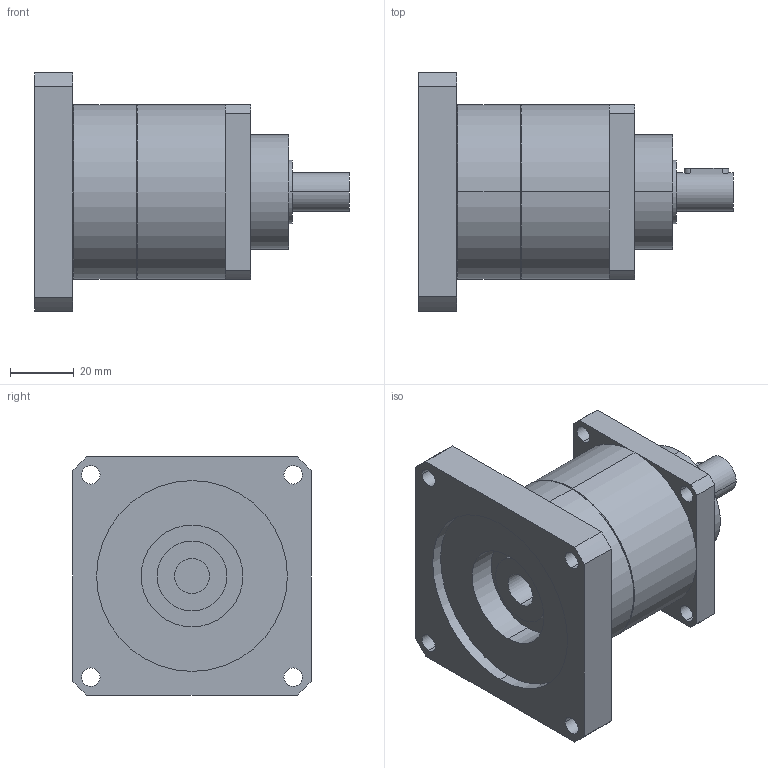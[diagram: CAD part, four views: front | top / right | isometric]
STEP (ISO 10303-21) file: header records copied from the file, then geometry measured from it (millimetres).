
FILE_DESCRIPTION(('CoCreate Modeling STEP Export'),'2;1');
FILE_NAME('GPT55_ig-3-4-5-7-10_12_B5A_11_P15.stp','2014-08-25T14:31:22',(''),(''),'CoCreate Modeling STEP processor for AP214 (Solid Model)','CoCreate Modeling 16.00C 25-Feb-2009 (C) Parametric Technology GmbH','');
FILE_SCHEMA(('AUTOMOTIVE_DESIGN { 1 0 10303 214 1 1 1 1 }'));
Length unit declared in the file: millimetre
Products named in the file (2): GPT55_ig-3-4-5-7-10_12_B5A_11_P15
Assembly tree (1 placements, depth 2):
  GPT55_ig-3-4-5-7-10_12_B5A_11_P15
    GPT55_ig-3-4-5-7-10_12_B5A_11_P15
Bounding box: 99 x 75 x 75 mm (x, y, z)
Volume: 199874.2 mm3; surface area: 31891.1 mm2
Topology: 1 solids, 1 shells, 77 faces, 204 edges, 139 vertices
Faces by surface type: cylinder 46, plane 27, cone 4
Entity records: 2515 total; most frequent: CARTESIAN_POINT 710, ORIENTED_EDGE 408, DIRECTION 318, EDGE_CURVE 204, VERTEX_POINT 139, AXIS2_PLACEMENT_3D 117, EDGE_LOOP 103, VECTOR 84
